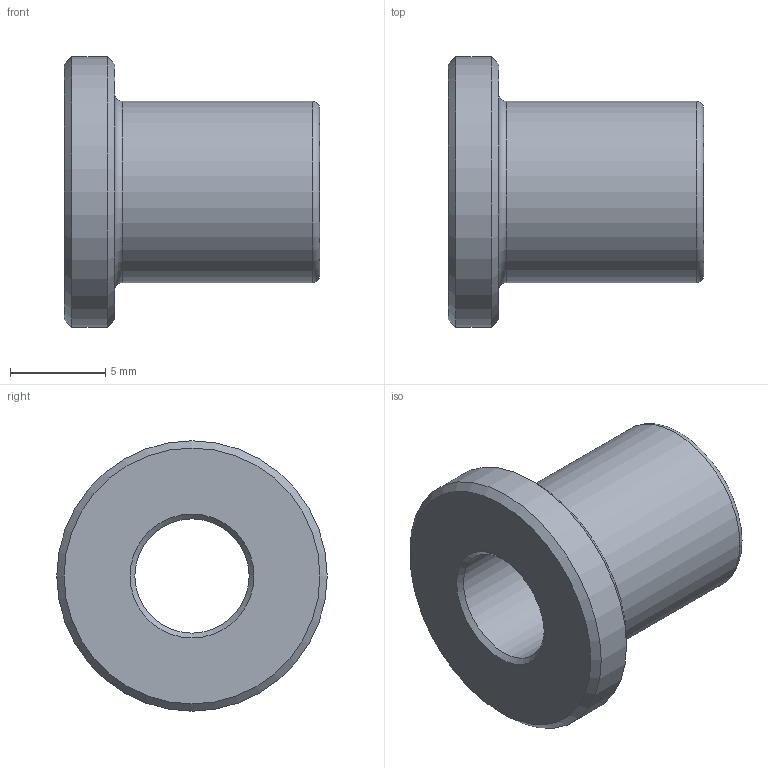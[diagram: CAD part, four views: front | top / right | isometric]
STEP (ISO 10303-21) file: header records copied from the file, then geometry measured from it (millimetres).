
FILE_DESCRIPTION( ( 'STEP AP214' ), '1' );
FILE_NAME( 'p:/temp/worker_39/temp/app_57_02019012316290171354872192d056f_000000_00_00_000000/format_0/M2PWBC.stp', '2019-01-23T15:29:02', ( '' ), ( '' ), ' ', 'PARTsolutions', ' ' );
FILE_SCHEMA( ( 'AUTOMOTIVE_DESIGN { 1 0 10303 214 1 1 1 1 }' ) );
Length unit declared in the file: inch
Products named in the file (1): _M2PWBC
Bounding box: 13.4 x 14.2 x 14.2 mm (x, y, z)
Volume: 797.7 mm3; surface area: 916.5 mm2
Topology: 1 solids, 1 shells, 12 faces, 21 edges, 12 vertices
Faces by surface type: cone 4, plane 3, cylinder 3, torus 2
Full cylindrical faces by diameter (mm): 6 x1, 9.52 x1, 14.2 x1
Entity records: 360 total; most frequent: DIRECTION 50, CARTESIAN_POINT 37, AXIS2_PLACEMENT_3D 25, EDGE_LOOP 24, ORIENTED_EDGE 24, FACE_OUTER_BOUND 17, STYLED_ITEM 12, PRESENTATION_STYLE_ASSIGNMENT 12
